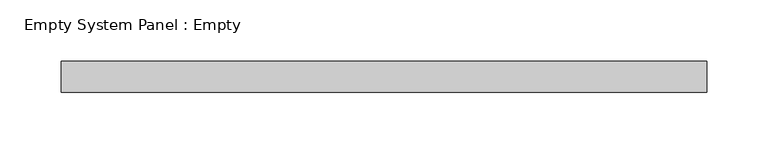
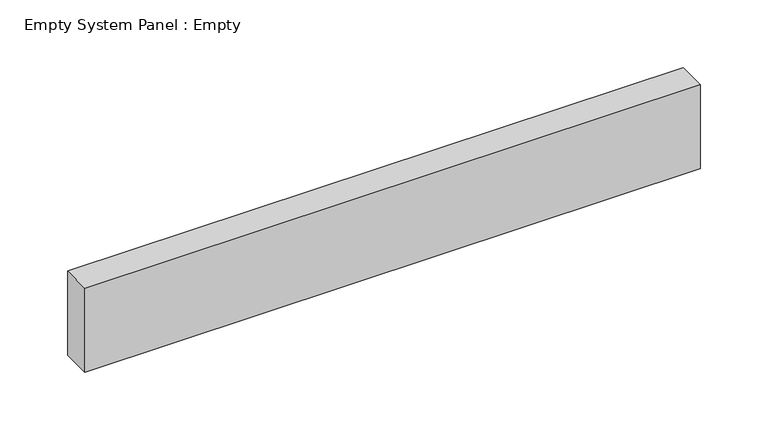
"""IFC4 building model written with IfcOpenShell, lengths in millimetres: plate geometry, Empty System Panel : Empty."""

from ifc_helpers import new_model, si_unit, origin, origin_with_axes, place, context, project, spatial, polyline, outline, extrude, source, transform, mapped, element, save


def empty_system_panel_empty_f93e9f1a(model_context):
    return source(origin(), model_context, "Body", "SweptSolid", [
        extrude(outline(polyline([(263.0393643, 19.05), (-263.0393643, 19.05), (-263.0393643, 44.45), (263.0393643, 44.45), (263.0393643, 19.05)])), origin_with_axes(), (0.0, 0.0, 1.0), 76.2),
    ])


if __name__ == "__main__":
    model = new_model("IFC4")
    model_context = context("Model", 3, world=origin())
    ifc_project = project(units=[si_unit("LENGTHUNIT", "METRE", prefix="MILLI")], contexts=[model_context])
    site = spatial("IfcSite", under=ifc_project)
    building = spatial("IfcBuilding", under=site)
    placement = place(None, origin())
    empty_system_panel_empty_shape = empty_system_panel_empty_f93e9f1a(model_context)
    element("IfcPlate", 1, ObjectType="Empty System Panel : Empty", at=placement, inside=building, context=model_context, shape_type="MappedRepresentation", body=[
        mapped(empty_system_panel_empty_shape, transform((0.0, 0.0, 0.0), x_axis=(1.0, 0.0, 0.0), y_axis=(0.0, 1.0, 0.0), z_axis=(0.0, 0.0, 1.0))),
    ])
    save(model, "model.ifc")
